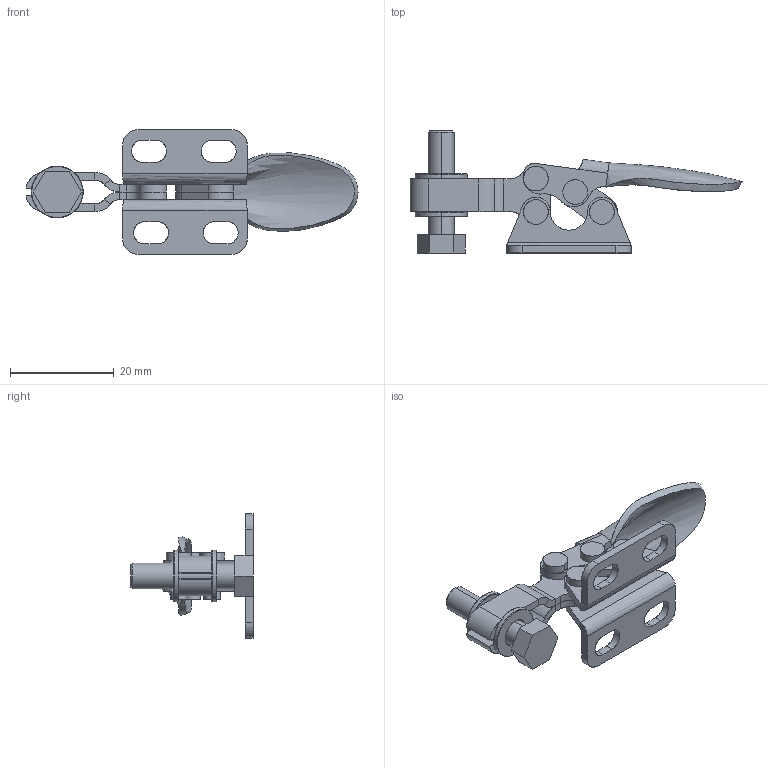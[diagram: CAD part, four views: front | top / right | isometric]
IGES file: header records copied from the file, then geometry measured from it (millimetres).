
Start section: SolidWorks IGES file using analytic representation for surfaces
Global section: file name: C:\Projetos\Grampos\KF-105\KF-105 D\KF-105 D.IGS; native system: SolidWorks 2011; preprocessor: SolidWorks 2011; author: Usuario; date: 110722.141633; units: millimetre
Bounding box: 63.86 x 23.5 x 24 mm (x, y, z)
Surface area: 5685.8 mm2 (no closed solid volume)
Topology: 0 solids, 0 shells, 261 faces, 4096 edges, 4126 vertices
Faces by surface type: revolution 148, bspline 113
